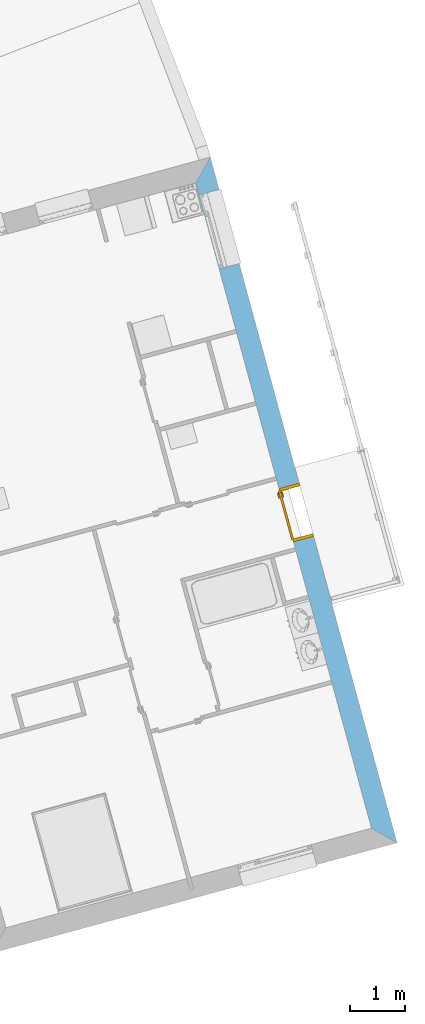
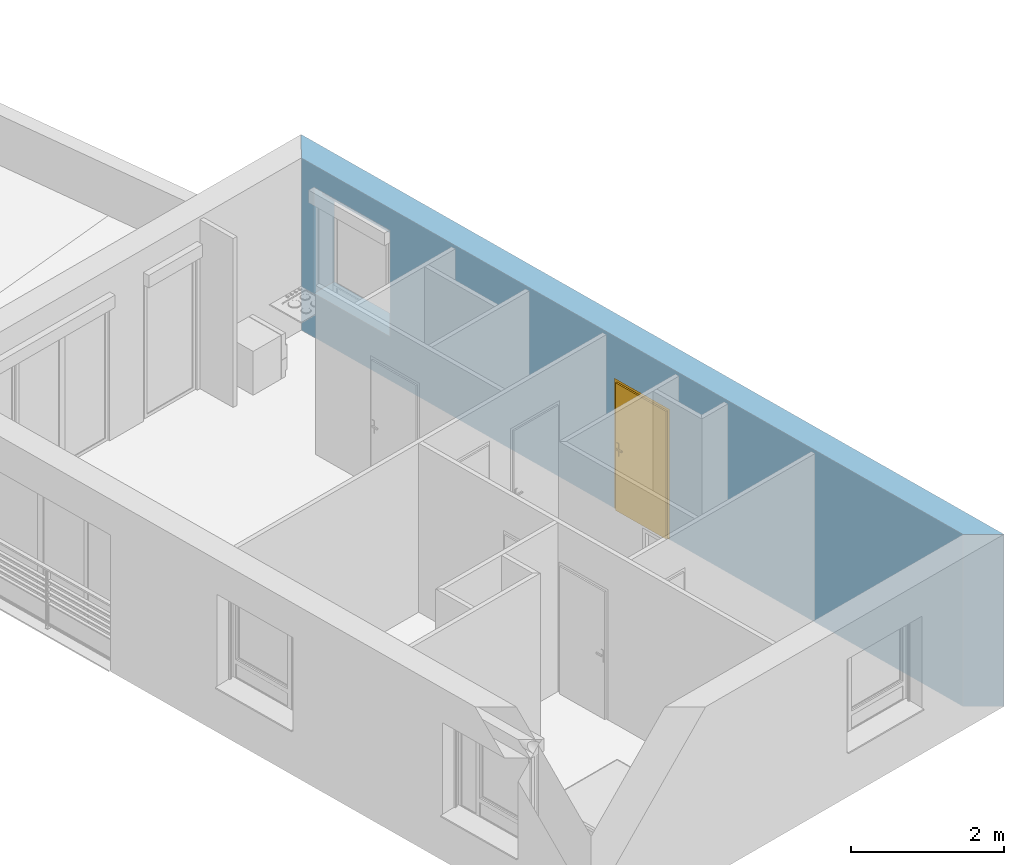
# One storey, part 68 of 121: 1 door, 2 openings, plus 1 element that does not belong to this part.
"""IFC2X3 building model written with IfcOpenShell, lengths in metres."""

from ifc_helpers import new_model, entity, si_unit, converted_unit, derived_unit, money_unit, direction, frame, origin_with_axes, origin_2d_with_axis, place, context, subcontext, project, spatial, polyline, rectangle, outline, extrude, faceted_brep, source, transform, mapped, material, layer, layer_set, layer_usage, type_object, element, fill, save


model = new_model("IFC2X3")

# Units and contexts
model_context = context("Model", 3, precision=1e-05, world=origin_with_axes(), true_north=direction((0.0, 1.0)))
body_context = subcontext(model_context, "Body", "Model", "MODEL_VIEW")
ifc_project = project(units=[si_unit("LENGTHUNIT", "METRE"), si_unit("AREAUNIT", "SQUARE_METRE"), si_unit("VOLUMEUNIT", "CUBIC_METRE"), converted_unit("PLANEANGLEUNIT", "DEGREE", entity("IfcPlaneAngleMeasure", 0.0174532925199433), si_unit("PLANEANGLEUNIT", "RADIAN"), dimensions=[0, 0, 0, 0, 0, 0, 0]), money_unit("CHF"), converted_unit("TIMEUNIT", "Year", entity("IfcTimeMeasure", 31557600.0), si_unit("TIMEUNIT", "SECOND"), dimensions=[0, 0, 1, 0, 0, 0, 0]), si_unit("MASSUNIT", "GRAM", prefix="KILO"), si_unit("THERMODYNAMICTEMPERATUREUNIT", "DEGREE_CELSIUS"), si_unit("LUMINOUSINTENSITYUNIT", "LUMEN"), si_unit("ENERGYUNIT", "JOULE", prefix="MEGA"), derived_unit("THERMALCONDUCTANCEUNIT", [(si_unit("POWERUNIT", "WATT"), 1), (si_unit("LENGTHUNIT", "METRE"), -1), (si_unit("THERMODYNAMICTEMPERATUREUNIT", "KELVIN"), -1)]), derived_unit("SPECIFICHEATCAPACITYUNIT", [(si_unit("ENERGYUNIT", "JOULE"), 1), (si_unit("MASSUNIT", "GRAM", prefix="KILO"), -1), (si_unit("THERMODYNAMICTEMPERATUREUNIT", "KELVIN"), -1)]), derived_unit("MASSDENSITYUNIT", [(si_unit("MASSUNIT", "GRAM", prefix="KILO"), 1), (si_unit("VOLUMEUNIT", "CUBIC_METRE"), -1)])], contexts=[model_context])

# Site, building, storey
site_placement = place(None, origin_with_axes())
site = spatial("IfcSite", under=ifc_project, at=site_placement, Name="Site", CompositionType="ELEMENT")
building_placement = place(site_placement, origin_with_axes())
building = spatial("IfcBuilding", under=site, at=building_placement, Name="Bâtiment", CompositionType="ELEMENT")
storey_placement = place(building_placement, frame((0.0, 0.0, 2.75), z_axis=(0.0, 0.0, 1.0), x_axis=(1.0, 0.0, 0.0)))
storey = spatial("IfcBuildingStorey", under=building, at=storey_placement, Name="Etage 1", CompositionType="ELEMENT", Elevation=2.75)

# Wall, openings, door
ifc_material_1 = material(Name="Parpaing 312445824")
ifc_layer_1 = layer(ifc_material_1, 0.22, ventilated="UNKNOWN")
ifc_material_2 = material(Name="Isolant styromousse 301821074")
ifc_layer_2 = layer(ifc_material_2, 0.16, ventilated="UNKNOWN")
ifc_layer_set = layer_set([ifc_layer_1, ifc_layer_2], Name="isol int 22+16 0836643197")
ifc_layer_usage = layer_usage(ifc_layer_set, "AXIS2", "POSITIVE", 0.0)
wall_type = type_object("IfcWallType", Name="isol int 22+16 0836643197 380", PredefinedType="NOTDEFINED")
wall_placement = place(storey_placement, frame((9597.140845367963, -1057.414526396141, 57.7), z_axis=(0.0, 0.0, 1.0), x_axis=(-0.262734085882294, 0.9648682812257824, 0.0)))
wall = element("IfcWallStandardCase", 1, at=wall_placement, inside=storey, type_object=wall_type, material=ifc_layer_usage, Name="Mur-113", context=body_context, shape_type="SweptSolid", body=[
    extrude(outline(polyline([(0.0, 0.0), (12.95727343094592, 0.0), (12.57727343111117, 0.3799999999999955), (0.3800000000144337, 0.3799999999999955), (0.0, 0.0)])), origin_with_axes(), (0.0, 0.0, 1.0), 2.75),
])
opening_1_placement = place(wall_placement, frame((11.64681429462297, 0.0, 0.7000000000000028), z_axis=(0.0, 0.0, 1.0), x_axis=(1.0, 0.0, 0.0)))
element("IfcOpeningElement", 2, at=opening_1_placement, cuts=wall, Name="Fen-045", context=body_context, shape_type="Brep", body=[
    faceted_brep([(0.6999999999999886, 0.2200000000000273, 1.5), (-0.6999999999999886, 0.2200000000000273, 1.5), (-0.7000000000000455, -3.28571786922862, 1.5), (0.6999999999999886, -3.28571786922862, 1.5), (0.6999999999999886, 0.2200000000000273, 1.700000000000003), (-0.6999999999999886, 0.2200000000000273, 1.700000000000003), (-0.7000000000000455, 0.2999999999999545, 1.5), (-0.7000000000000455, 0.2999999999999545, 0.0), (-0.7000000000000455, -3.28571786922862, 0.0), (0.6999999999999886, -3.28571786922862, 0.0), (0.6999999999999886, 0.3000000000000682, 1.5), (0.6999999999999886, 0.3000000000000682, 0.0), (0.6999999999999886, 0.4800000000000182, 1.5), (0.6999999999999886, 0.4800000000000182, 1.700000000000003), (-0.7000000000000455, 0.4799999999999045, 1.700000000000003), (-0.7000000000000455, 0.4799999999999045, 1.5), (-0.7000000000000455, 3.665717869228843, 1.5), (-0.7000000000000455, 3.665717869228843, 0.0), (0.6999999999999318, 3.665717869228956, 0.0), (0.6999999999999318, 3.665717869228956, 1.5)], [[[0, 1, 2, 3]], [[1, 0, 4, 5]], [[1, 6, 7, 8, 2]], [[2, 8, 9, 3]], [[10, 0, 3, 9, 11]], [[0, 10, 12, 13, 4]], [[4, 13, 14, 5]], [[6, 1, 5, 14, 15]], [[6, 15, 16, 17, 7]], [[7, 11, 9, 8]], [[12, 10, 11, 18, 19]], [[12, 15, 14, 13]], [[15, 12, 19, 16]], [[19, 18, 17, 16]], [[11, 7, 17, 18]]]),
])
opening_2_placement = place(wall_placement, frame((6.294315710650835, 0.0, 0.0), z_axis=(0.0, 0.0, 1.0), x_axis=(1.0, 0.0, 0.0)))
opening_2 = element("IfcOpeningElement", 3, at=opening_2_placement, cuts=wall, Name="Por-293", context=body_context, shape_type="SweptSolid", body=[
    extrude(rectangle(XDim=1.01000001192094, YDim=2.079999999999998, at=origin_2d_with_axis()), frame((-5.960430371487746e-09, -0.3799999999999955, 1.039999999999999), z_axis=(0.0, -1.0, 0.0), x_axis=(-1.0, 0.0, 0.0)), (0.0, 0.0, -1.0), 0.76),
])
door_style = type_object("IfcDoorStyle", Name="Porte_1v", ConstructionType="NOTDEFINED", OperationType="NOTDEFINED", ParameterTakesPrecedence=False, Sizeable=False)
shared_shape = source(origin_with_axes(), body_context, "Body", "Brep", [
    faceted_brep([(-0.505, 0.0, 0.0), (-0.505, 0.0, 2.08), (0.505, 0.0, 2.08), (0.505, 0.0, 0.0), (0.465, 0.0, 0.0), (0.465, 0.0, 2.04), (-0.465, 0.0, 2.04), (-0.465, 0.0, 0.0), (-0.505, -0.38, 0.0), (-0.505, -0.38, 2.08), (0.505, -0.38, 2.08), (0.505, -0.38, 0.0), (0.45, -0.38, 0.0), (0.45, -0.015, 0.0), (0.465, -0.015, 0.0), (0.465, -0.015, 2.04), (-0.465, -0.015, 2.04), (-0.465, -0.015, 0.0), (-0.45, -0.015, 0.0), (-0.45, -0.38, 0.0), (-0.45, -0.38, 2.025), (0.45, -0.38, 2.025), (0.45, -0.015, 2.025), (-0.45, -0.015, 2.025)], [[[0, 1, 2, 3, 4, 5, 6, 7]], [[8, 9, 1, 0]], [[9, 10, 2, 1]], [[10, 11, 3, 2]], [[3, 11, 12, 13, 14, 4]], [[5, 4, 14, 15]], [[6, 5, 15, 16]], [[7, 6, 16, 17]], [[0, 7, 17, 18, 19, 8]], [[19, 20, 21, 12, 11, 10, 9, 8]], [[22, 13, 12, 21]], [[17, 16, 15, 14, 13, 22, 23, 18]], [[18, 23, 20, 19]], [[23, 22, 21, 20]]]),
    faceted_brep([(0.4, -0.015, 0.9), (0.4, -0.015, 1.1), (0.44, -0.015, 1.1), (0.44, -0.015, 0.9), (0.4, -0.025, 0.9), (0.4, -0.025, 1.1), (0.44, -0.025, 1.1), (0.44, -0.025, 0.9)], [[[0, 1, 2, 3]], [[0, 4, 5, 1]], [[1, 5, 6, 2]], [[2, 6, 7, 3]], [[3, 7, 4, 0]], [[7, 6, 5, 4]]]),
    faceted_brep([(0.33, -0.025, 1.0), (0.33, -0.025, 1.02), (0.43, -0.025, 1.02), (0.43, -0.025, 1.0), (0.33, -0.045, 1.0), (0.33, -0.045, 1.02), (0.43, -0.045, 1.02), (0.43, -0.045, 1.0)], [[[0, 1, 2, 3]], [[0, 4, 5, 1]], [[1, 5, 6, 2]], [[2, 6, 7, 3]], [[3, 7, 4, 0]], [[7, 6, 5, 4]]]),
    faceted_brep([(0.4, 0.035, 0.9), (0.4, 0.035, 1.1), (0.44, 0.035, 1.1), (0.44, 0.035, 0.9), (0.4, 0.025, 0.9), (0.4, 0.025, 1.1), (0.44, 0.025, 1.1), (0.44, 0.025, 0.9)], [[[0, 1, 2, 3]], [[0, 4, 5, 1]], [[1, 5, 6, 2]], [[2, 6, 7, 3]], [[3, 7, 4, 0]], [[7, 6, 5, 4]]]),
    faceted_brep([(0.33, 0.05500000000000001, 1.0), (0.33, 0.05500000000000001, 1.02), (0.43, 0.05500000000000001, 1.02), (0.43, 0.05500000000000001, 1.0), (0.33, 0.035, 1.0), (0.33, 0.035, 1.02), (0.43, 0.035, 1.02), (0.43, 0.035, 1.0)], [[[0, 1, 2, 3]], [[0, 4, 5, 1]], [[1, 5, 6, 2]], [[2, 6, 7, 3]], [[3, 7, 4, 0]], [[7, 6, 5, 4]]]),
    faceted_brep([(0.465, 0.025, 0.0), (0.465, -0.015, 0.0), (-0.465, -0.015, 0.0), (-0.465, 0.025, 0.0), (0.465, 0.025, 2.04), (0.465, -0.015, 2.04), (-0.465, -0.015, 2.04), (-0.465, 0.025, 2.04)], [[[0, 1, 2, 3]], [[4, 5, 1, 0]], [[1, 5, 6, 2]], [[3, 2, 6, 7]], [[0, 3, 7, 4]], [[7, 6, 5, 4]]]),
])
door_placement = place(opening_2_placement, frame((-0.4649999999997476, 0.0, 0.0), z_axis=(0.0, 0.0, 1.0), x_axis=(1.0, 0.0, 0.0)))
door = element("IfcDoor", 4, at=door_placement, inside=storey, type_object=door_style, Name="Por-293", OverallHeight=2.04, OverallWidth=0.93, context=body_context, shape_type="MappedRepresentation", body=[
    mapped(shared_shape, transform((0.4650000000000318, 0.3799999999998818, 0.0))),
])
fill(opening_2, door)

save(model, "model.ifc")
